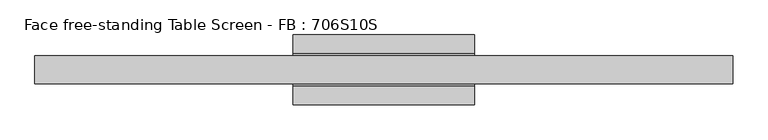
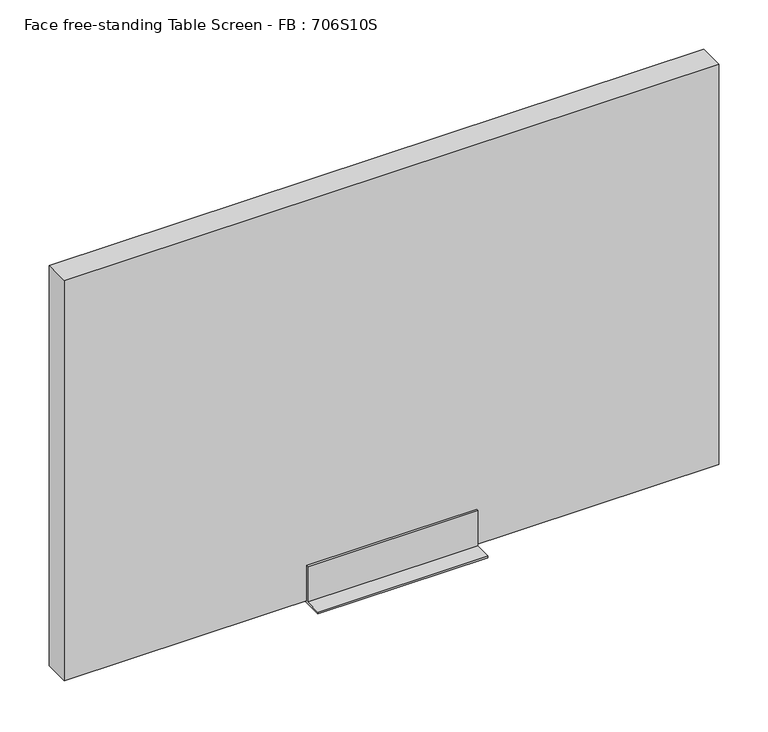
"""IFC4 building model written with IfcOpenShell, lengths in millimetres: furniture geometry, Face free-standing Table Screen - FB : 706S10S."""

from ifc_helpers import new_model, si_unit, frame, origin, place, context, project, spatial, polyline, outline, extrude, source, transform, mapped, element, save


def face_free_standing_table_screen_fb_706s10s_eb0373b6(model_context):
    return source(origin(), model_context, "Body", "SweptSolid", [
        extrude(outline(polyline([(-50.0, 3.0), (-22.999995, 3.0), (-23.0, 60.0), (-20.0, 60.0), (-20.0, 3.0), (20.0, 3.0), (20.0, 60.0), (23.0, 60.0), (22.999995, 3.0), (50.0, 3.0), (50.0, 0.0), (-50.0, 0.0), (-50.0, 3.0)])), frame((-130.0, 0.0, 0.0), z_axis=(1.0, 0.0, 0.0), x_axis=(0.0, 1.0, 0.0)), (0.0, 0.0, 1.0), 260.0),
        extrude(outline(polyline([(500.0, -20.0), (-500.0, -20.0), (-500.0, 20.0), (500.0, 20.0), (500.0, -20.0)])), frame((0.0, 0.0, 3.0), z_axis=(0.0, 0.0, 1.0), x_axis=(1.0, 0.0, 0.0)), (0.0, 0.0, 1.0), 647.0),
    ])


if __name__ == "__main__":
    model = new_model("IFC4")
    model_context = context("Model", 3, world=origin())
    ifc_project = project(units=[si_unit("LENGTHUNIT", "METRE", prefix="MILLI")], contexts=[model_context])
    site = spatial("IfcSite", under=ifc_project)
    building = spatial("IfcBuilding", under=site)
    placement = place(None, origin())
    face_free_standing_table_screen_fb_706s10s_shape = face_free_standing_table_screen_fb_706s10s_eb0373b6(model_context)
    element("IfcFurniture", 1, ObjectType="Face free-standing Table Screen - FB : 706S10S", at=placement, inside=building, context=model_context, shape_type="MappedRepresentation", body=[
        mapped(face_free_standing_table_screen_fb_706s10s_shape, transform((0.0, 0.0, 0.0), x_axis=(1.0, 0.0, 0.0), y_axis=(0.0, 1.0, 0.0), z_axis=(0.0, 0.0, 1.0))),
    ])
    save(model, "model.ifc")
